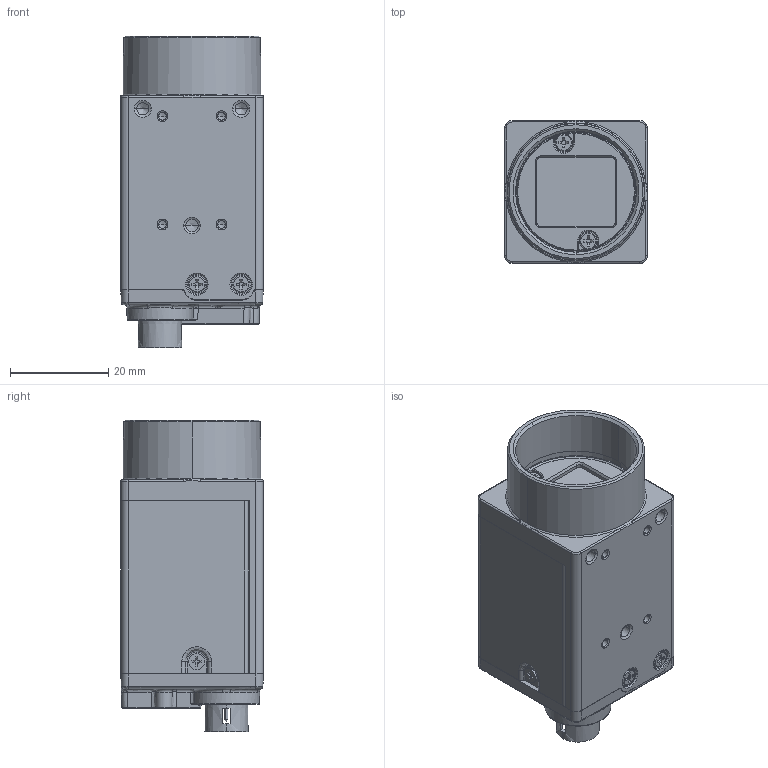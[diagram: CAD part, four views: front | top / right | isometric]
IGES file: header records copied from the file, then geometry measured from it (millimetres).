
Start section:  PTC IGES file: 18-9.igs
Global section: file name: 18-9.igs; native system: Creo Parametric by PTC Inc.; preprocessor: 2020184; author: 21511; organization: Unknown; date: 20231122.154538; units: millimetre
Bounding box: 29 x 29 x 63.2 mm (x, y, z)
Volume: 36053 mm3; surface area: 21777.7 mm2
Topology: 1 solids, 13 shells, 2025 faces, 5447 edges, 3438 vertices
Faces by surface type: bspline 1143, revolution 833, extrusion 49
